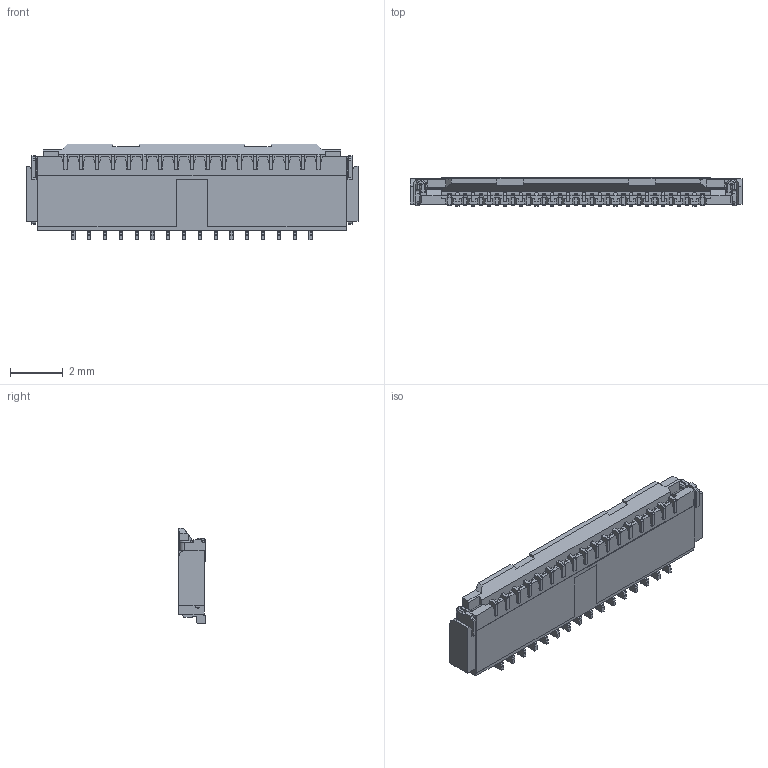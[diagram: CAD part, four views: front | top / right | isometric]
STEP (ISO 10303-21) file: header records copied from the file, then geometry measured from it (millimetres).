
FILE_DESCRIPTION((''),'2;1');
FILE_NAME('PRT0001','2018-01-30T',('t00382'),(''),'PRO/ENGINEER BY PARAMETRIC TECHNOLOGY CORPORATION, 2011490','PRO/ENGINEER BY PARAMETRIC TECHNOLOGY CORPORATION, 2011490','');
FILE_SCHEMA(('AUTOMOTIVE_DESIGN { 1 0 10303 214 1 1 1 1 }'));
Products named in the file (1): PRT0001
Bounding box: 12.6 x 1.06 x 3.63 mm (x, y, z)
Volume: 29 mm3; surface area: 224.7 mm2
Topology: 1 solids, 1 shells, 2736 faces, 8092 edges, 5466 vertices
Faces by surface type: plane 2184, cylinder 550, cone 2
Entity records: 125291 total; most frequent: CARTESIAN_POINT 16804, ORIENTED_EDGE 15792, DIRECTION 14336, PRESENTATION_STYLE_ASSIGNMENT 9619, STYLED_ITEM 8129, CURVE_STYLE 8128, EDGE_CURVE 7896, VECTOR 6838
